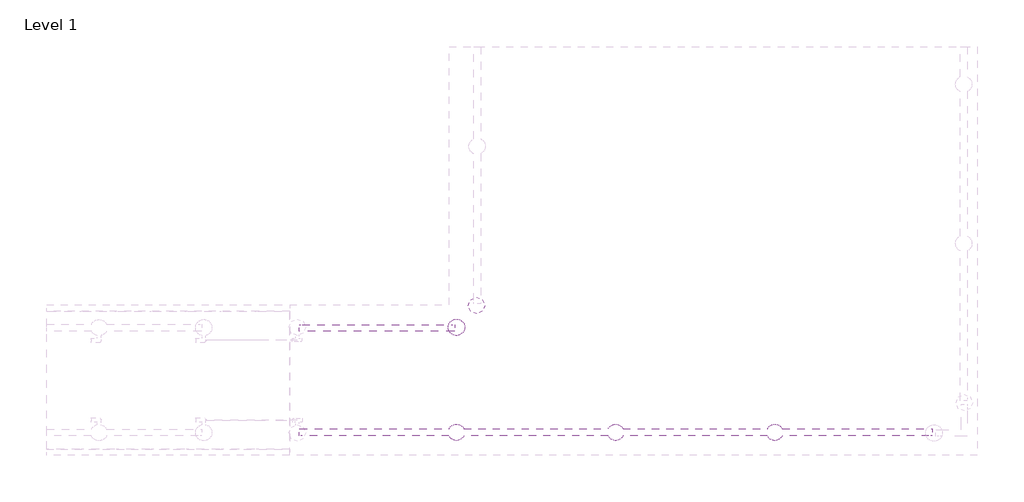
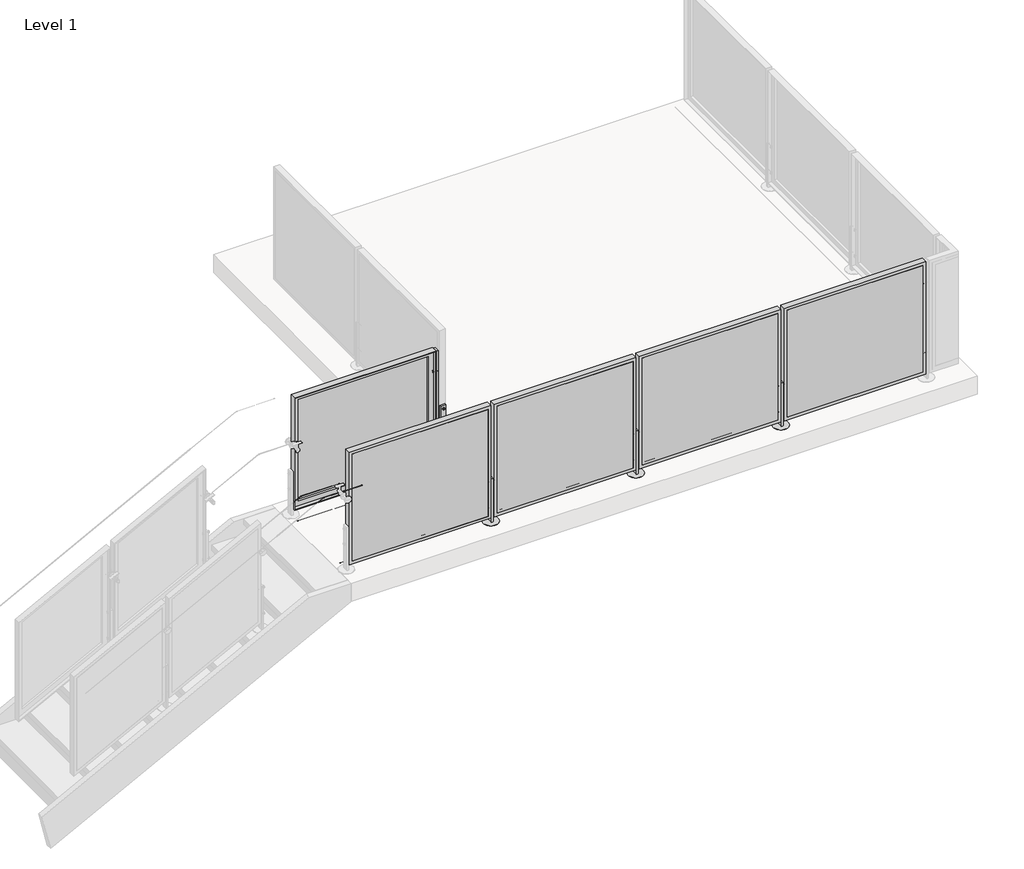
# One storey, part 35 of 37: 2 proxies, 2 railings.
"""IFC4 building model written with IfcOpenShell, lengths in millimetres."""

from ifc_helpers import new_model, si_unit, point, frame, frame_2d, origin, place, context, project, spatial, polyline, circle_curve, trimmed, segment, composite_curve, outline, extrude, faceted_brep, transform, mapped, element, save
from ifc_brep_helpers import plane_surface, cylinder_surface, advanced_brep
from components import baluster_end_post_viva_frame_top_mount_933f940f, baluster_end_post_viva_frame_top_mount_933cdb12

model = new_model("IFC4")

# Units and contexts
model_context = context("Model", 3, world=origin())
ifc_project = project(units=[si_unit("LENGTHUNIT", "METRE", prefix="MILLI")], contexts=[model_context])

# Site, building, storey
site = spatial("IfcSite", under=ifc_project)
building = spatial("IfcBuilding", under=site)
storey = spatial("IfcBuildingStorey", under=building, Name="Level 1", Elevation=0.0)

# Proxies
placement = place(None, origin())
baluster_end_post_viva_frame_top_mount_shape = baluster_end_post_viva_frame_top_mount_933f940f(model_context)
element("IfcBuildingElementProxy", 1, Name="Baluster-End-Post-VIVA-FRAME-Top Mount : CORED INTO CONCRETE_TOP MOUNT FOLD_STRAIGHT", ObjectType="Baluster-End-Post-VIVA-FRAME-Top Mount : CORED INTO CONCRETE_TOP MOUNT FOLD_STRAIGHT", at=placement, inside=storey, context=model_context, shape_type="MappedRepresentation", body=[
    mapped(baluster_end_post_viva_frame_top_mount_shape, transform((-5882.5754694, 9521.3663722, 3047.492), x_axis=(0.0, -1.0, 0.0), y_axis=(1.0, 0.0, 0.0), z_axis=(0.0, 0.0, 1.0))),
])
baluster_end_post_viva_frame_top_mount_2_shape = baluster_end_post_viva_frame_top_mount_933cdb12(model_context)
element("IfcBuildingElementProxy", 2, Name="Baluster-End-Post-VIVA-FRAME-Top Mount : CORED INTO CONCRETE_TOP MOUNT FOLD_STRAIGHT", ObjectType="Baluster-End-Post-VIVA-FRAME-Top Mount : CORED INTO CONCRETE_TOP MOUNT FOLD_STRAIGHT", at=placement, inside=storey, context=model_context, shape_type="MappedRepresentation", body=[
    mapped(baluster_end_post_viva_frame_top_mount_2_shape, transform((-6143.6813244, 9246.7937722, 3047.492), x_axis=(-1.0, 0.0, 0.0), y_axis=(0.0, -1.0, 0.0), z_axis=(0.0, 0.0, 1.0))),
])

# Railings
element("IfcRailing", 3, ObjectType="Metal-Panel-VIVA-FRAME-Top_Core-Straight", at=placement, inside=storey, context=model_context, shape_type="SolidModel", body=[
    extrude(outline(composite_curve([segment(trimmed(circle_curve(frame_2d((8605.5937722, 3047.746)), 0.254), [point((8605.3397722, 3047.746))], [point((8605.8477722, 3047.746))], False, "CARTESIAN"), True, "CONTINUOUS"), segment(trimmed(circle_curve(frame_2d((8605.5937722, 3047.746)), 0.254), [point((8605.8477722, 3047.746))], [point((8605.3397722, 3047.746))], False, "CARTESIAN"), True, "CONTINUOUS")], self_intersect=False)), frame((-7413.6813244, 0.0, 0.0), z_axis=(1.0, 0.0, 0.0), x_axis=(0.0, 1.0, 0.0)), (0.0, 0.0, 1.0), 5080.0),
    extrude(outline(composite_curve([segment(trimmed(circle_curve(frame_2d((8605.5937722, 3047.746)), 0.254), [point((8605.3397722, 3047.746))], [point((8605.8477722, 3047.746))], False, "CARTESIAN"), True, "CONTINUOUS"), segment(trimmed(circle_curve(frame_2d((8605.5937722, 3047.746)), 0.254), [point((8605.8477722, 3047.746))], [point((8605.3397722, 3047.746))], False, "CARTESIAN"), True, "CONTINUOUS")], self_intersect=False)), frame((-7413.6813244, 0.0, 0.0), z_axis=(1.0, 0.0, 0.0), x_axis=(0.0, 1.0, 0.0)), (0.0, 0.0, 1.0), 5080.0),
    extrude(outline(polyline([(-3562.8548675, 8482.7833722), (-3562.8548675, 8485.7833722), (-2374.5077814, 8485.7833722), (-2374.5077814, 8482.7833722), (-3562.8548675, 8482.7833722)])), frame((0.0, 0.0, 3124.1959569), z_axis=(0.0, 0.0, 1.0), x_axis=(1.0, 0.0, 0.0)), (0.0, 0.0, 1.0), 990.5826861),
    faceted_brep([(-3588.2548675, 8482.7833722, 4140.1786431), (-3588.2548675, 8482.7833722, 3098.7959569), (-2349.1077814, 8482.7833722, 3098.7959569), (-2349.1077814, 8482.7833722, 4140.1786431), (-3562.8548675, 8482.7833722, 4114.7786431), (-2374.5077814, 8482.7833722, 4114.7786431), (-2374.5077814, 8482.7833722, 3124.1959569), (-3562.8548675, 8482.7833722, 3124.1959569), (-2374.5077814, 8485.7833722, 3124.1959569), (-3562.8548675, 8485.7833722, 3124.1959569), (-2374.5077814, 8485.7833722, 4114.7786431), (-3562.8548675, 8485.7833722, 4114.7786431), (-3582.2604675, 8536.5833722, 3104.7903569), (-3582.2604675, 8505.7731722, 3104.7903569), (-2355.1021814, 8505.7731722, 3104.7903569), (-2355.1021814, 8536.5833722, 3104.7903569), (-2355.1021814, 8505.7731722, 4134.1842431), (-2355.1021814, 8536.5833722, 4134.1842431), (-3582.2604675, 8536.5833722, 4134.1842431), (-3582.2604675, 8505.7731722, 4134.1842431), (-2349.1077814, 8536.5833722, 3098.7959569), (-3588.2548675, 8536.5833722, 3098.7959569), (-3588.2548675, 8536.5833722, 4140.1786431), (-2349.1077814, 8536.5833722, 4140.1786431), (-3537.4548675, 8485.7833722, 4089.3786431), (-2399.9077814, 8485.7833722, 4089.3786431), (-2399.9077814, 8485.7833722, 3149.5959569), (-3537.4548675, 8485.7833722, 3149.5959569), (-2399.9077814, 8505.7731722, 3149.5959569), (-2399.9077814, 8505.7731722, 4089.3786431), (-3537.4548675, 8505.7731722, 4089.3786431), (-3537.4548675, 8505.7731722, 3149.5959569)], [[[0, 1, 2, 3], [4, 5, 6, 7]], [[7, 6, 8, 9]], [[6, 5, 10, 8]], [[5, 4, 11, 10]], [[4, 7, 9, 11]], [[12, 13, 14, 15]], [[15, 14, 16, 17]], [[13, 12, 18, 19]], [[20, 21, 22, 23], [12, 15, 17, 18]], [[21, 1, 0, 22]], [[21, 20, 2, 1]], [[2, 20, 23, 3]], [[22, 0, 3, 23]], [[11, 9, 8, 10], [24, 25, 26, 27]], [[14, 13, 19, 16], [28, 29, 30, 31]], [[19, 18, 17, 16]], [[25, 24, 30, 29]], [[26, 25, 29, 28]], [[27, 26, 28, 31]], [[24, 27, 31, 30]]]),
    extrude(outline(composite_curve([segment(trimmed(circle_curve(frame_2d((-3603.6813244, 8509.6833722)), 65.8876), [point((-3603.6813244, 8443.7957722))], [point((-3603.6813244, 8575.5709722))], False, "CARTESIAN"), True, "CONTINUOUS"), segment(trimmed(circle_curve(frame_2d((-3603.6813244, 8509.6833722)), 65.8876), [point((-3603.6813244, 8575.5709722))], [point((-3603.6813244, 8443.7957722))], False, "CARTESIAN"), True, "CONTINUOUS")], self_intersect=False)), frame((0.0, 0.0, 3048.0), z_axis=(0.0, 0.0, 1.0), x_axis=(1.0, 0.0, 0.0)), (0.0, 0.0, 1.0), 2.9821299),
    advanced_brep(
    [(-3629.8687244, 8509.6833722, 3178.1496), (-3629.8687244, 8509.6833722, 3197.2504), (-3629.8687244, 8509.6833722, 3187.7), (-3625.0935244, 8509.6833722, 3178.1496), (-3625.0935244, 8509.6833722, 3197.2504), (-3625.0935244, 8509.6833722, 3182.9248), (-3625.0935244, 8509.6833722, 3192.4752), (-3582.2691244, 8509.6833722, 3182.9248), (-3582.2691244, 8509.6833722, 3192.4752), (-3582.2691244, 8509.6833722, 3178.1496), (-3582.2691244, 8509.6833722, 3197.2504), (-3577.4939244, 8509.6833722, 3178.1496), (-3577.4939244, 8509.6833722, 3197.2504), (-3577.4939244, 8509.6833722, 3187.7)],
    [
        (0, 1, circle_curve(frame((-3629.8687244, 8509.6833722, 3187.7), z_axis=(-1.0, 0.0, 0.0), x_axis=(0.0, 0.0, 1.0)), 9.5504)),
        (1, 2),
        (2, 0),
        (1, 0, circle_curve(frame((-3629.8687244, 8509.6833722, 3187.7), z_axis=(-1.0, 0.0, 0.0), x_axis=(0.0, 0.0, 1.0)), 9.5504)),
        (3, 4, circle_curve(frame((-3625.0935244, 8509.6833722, 3187.7), z_axis=(-1.0, 0.0, 0.0), x_axis=(0.0, 0.0, 1.0)), 9.5504)),
        (4, 1),
        (0, 3),
        (4, 3, circle_curve(frame((-3625.0935244, 8509.6833722, 3187.7), z_axis=(-1.0, 0.0, 0.0), x_axis=(0.0, 0.0, 1.0)), 9.5504)),
        (5, 6, circle_curve(frame((-3625.0935244, 8509.6833722, 3187.7), z_axis=(-1.0, 0.0, 0.0), x_axis=(0.0, 0.0, 1.0)), 4.7752)),
        (6, 4),
        (3, 5),
        (6, 5, circle_curve(frame((-3625.0935244, 8509.6833722, 3187.7), z_axis=(-1.0, 0.0, 0.0), x_axis=(0.0, 0.0, 1.0)), 4.7752)),
        (7, 8, circle_curve(frame((-3582.2691244, 8509.6833722, 3187.7), z_axis=(-1.0, 0.0, 0.0), x_axis=(0.0, 0.0, 1.0)), 4.7752)),
        (8, 6),
        (5, 7),
        (8, 7, circle_curve(frame((-3582.2691244, 8509.6833722, 3187.7), z_axis=(-1.0, 0.0, 0.0), x_axis=(0.0, 0.0, 1.0)), 4.7752)),
        (9, 10, circle_curve(frame((-3582.2691244, 8509.6833722, 3187.7), z_axis=(-1.0, 0.0, 0.0), x_axis=(0.0, 0.0, 1.0)), 9.5504)),
        (10, 8),
        (7, 9),
        (10, 9, circle_curve(frame((-3582.2691244, 8509.6833722, 3187.7), z_axis=(-1.0, 0.0, 0.0), x_axis=(0.0, 0.0, 1.0)), 9.5504)),
        (11, 12, circle_curve(frame((-3577.4939244, 8509.6833722, 3187.7), z_axis=(-1.0, 0.0, 0.0), x_axis=(0.0, 0.0, 1.0)), 9.5504)),
        (12, 10),
        (9, 11),
        (12, 11, circle_curve(frame((-3577.4939244, 8509.6833722, 3187.7), z_axis=(-1.0, 0.0, 0.0), x_axis=(0.0, 0.0, 1.0)), 9.5504)),
        (13, 12),
        (11, 13),
    ],
    [
        plane_surface(frame((-3629.8687244, 8509.6833722, 3187.7), z_axis=(-1.0, 0.0, 0.0), x_axis=(0.0, 0.0, 1.0))),
        cylinder_surface(frame((-7021.4490816, 8509.6833722, 3187.7), z_axis=(1.0, 0.0, 0.0), x_axis=(0.0, 0.0, 1.0)), 9.5504),
        plane_surface(frame((-3625.0935244, 8509.6833722, 3187.7), z_axis=(1.0, 0.0, 0.0), x_axis=(0.0, 0.0, 1.0))),
        cylinder_surface(frame((-7021.4490816, 8509.6833722, 3187.7), z_axis=(1.0, 0.0, 0.0), x_axis=(0.0, 0.0, 1.0)), 4.7752),
        plane_surface(frame((-3582.2691244, 8509.6833722, 3187.7), z_axis=(-1.0, 0.0, 0.0), x_axis=(0.0, 0.0, 1.0))),
        plane_surface(frame((-3577.4939244, 8509.6833722, 3187.7), z_axis=(1.0, 0.0, 0.0), x_axis=(0.0, 0.0, 1.0))),
    ],
    [
        (0, [[1, 2, 3]]),
        (0, [[4, -3, -2]]),
        (1, [[5, 6, -1, 7]]),
        (1, [[8, -7, -4, -6]]),
        (2, [[9, 10, -5, 11]]),
        (2, [[12, -11, -8, -10]]),
        (3, [[13, 14, -9, 15]]),
        (3, [[16, -15, -12, -14]]),
        (4, [[17, 18, -13, 19]]),
        (4, [[20, -19, -16, -18]]),
        (1, [[21, 22, -17, 23]]),
        (1, [[24, -23, -20, -22]]),
        (5, [[25, -21, 26]]),
        (5, [[-26, -24, -25]]),
    ],
),
    advanced_brep(
    [(-3629.8687244, 8509.6833722, 3419.4496), (-3629.8687244, 8509.6833722, 3438.5504), (-3629.8687244, 8509.6833722, 3429.0), (-3625.0935244, 8509.6833722, 3419.4496), (-3625.0935244, 8509.6833722, 3438.5504), (-3625.0935244, 8509.6833722, 3424.2248), (-3625.0935244, 8509.6833722, 3433.7752), (-3582.2691244, 8509.6833722, 3424.2248), (-3582.2691244, 8509.6833722, 3433.7752), (-3582.2691244, 8509.6833722, 3419.4496), (-3582.2691244, 8509.6833722, 3438.5504), (-3577.4939244, 8509.6833722, 3419.4496), (-3577.4939244, 8509.6833722, 3438.5504), (-3577.4939244, 8509.6833722, 3429.0)],
    [
        (0, 1, circle_curve(frame((-3629.8687244, 8509.6833722, 3429.0), z_axis=(-1.0, 0.0, 0.0), x_axis=(0.0, 0.0, 1.0)), 9.5504)),
        (1, 2),
        (2, 0),
        (1, 0, circle_curve(frame((-3629.8687244, 8509.6833722, 3429.0), z_axis=(-1.0, 0.0, 0.0), x_axis=(0.0, 0.0, 1.0)), 9.5504)),
        (3, 4, circle_curve(frame((-3625.0935244, 8509.6833722, 3429.0), z_axis=(-1.0, 0.0, 0.0), x_axis=(0.0, 0.0, 1.0)), 9.5504)),
        (4, 1),
        (0, 3),
        (4, 3, circle_curve(frame((-3625.0935244, 8509.6833722, 3429.0), z_axis=(-1.0, 0.0, 0.0), x_axis=(0.0, 0.0, 1.0)), 9.5504)),
        (5, 6, circle_curve(frame((-3625.0935244, 8509.6833722, 3429.0), z_axis=(-1.0, 0.0, 0.0), x_axis=(0.0, 0.0, 1.0)), 4.7752)),
        (6, 4),
        (3, 5),
        (6, 5, circle_curve(frame((-3625.0935244, 8509.6833722, 3429.0), z_axis=(-1.0, 0.0, 0.0), x_axis=(0.0, 0.0, 1.0)), 4.7752)),
        (7, 8, circle_curve(frame((-3582.2691244, 8509.6833722, 3429.0), z_axis=(-1.0, 0.0, 0.0), x_axis=(0.0, 0.0, 1.0)), 4.7752)),
        (8, 6),
        (5, 7),
        (8, 7, circle_curve(frame((-3582.2691244, 8509.6833722, 3429.0), z_axis=(-1.0, 0.0, 0.0), x_axis=(0.0, 0.0, 1.0)), 4.7752)),
        (9, 10, circle_curve(frame((-3582.2691244, 8509.6833722, 3429.0), z_axis=(-1.0, 0.0, 0.0), x_axis=(0.0, 0.0, 1.0)), 9.5504)),
        (10, 8),
        (7, 9),
        (10, 9, circle_curve(frame((-3582.2691244, 8509.6833722, 3429.0), z_axis=(-1.0, 0.0, 0.0), x_axis=(0.0, 0.0, 1.0)), 9.5504)),
        (11, 12, circle_curve(frame((-3577.4939244, 8509.6833722, 3429.0), z_axis=(-1.0, 0.0, 0.0), x_axis=(0.0, 0.0, 1.0)), 9.5504)),
        (12, 10),
        (9, 11),
        (12, 11, circle_curve(frame((-3577.4939244, 8509.6833722, 3429.0), z_axis=(-1.0, 0.0, 0.0), x_axis=(0.0, 0.0, 1.0)), 9.5504)),
        (13, 12),
        (11, 13),
    ],
    [
        plane_surface(frame((-3629.8687244, 8509.6833722, 3429.0), z_axis=(-1.0, 0.0, 0.0), x_axis=(0.0, 0.0, 1.0))),
        cylinder_surface(frame((-7021.4490816, 8509.6833722, 3429.0), z_axis=(1.0, 0.0, 0.0), x_axis=(0.0, 0.0, 1.0)), 9.5504),
        plane_surface(frame((-3625.0935244, 8509.6833722, 3429.0), z_axis=(1.0, 0.0, 0.0), x_axis=(0.0, 0.0, 1.0))),
        cylinder_surface(frame((-7021.4490816, 8509.6833722, 3429.0), z_axis=(1.0, 0.0, 0.0), x_axis=(0.0, 0.0, 1.0)), 4.7752),
        plane_surface(frame((-3582.2691244, 8509.6833722, 3429.0), z_axis=(-1.0, 0.0, 0.0), x_axis=(0.0, 0.0, 1.0))),
        plane_surface(frame((-3577.4939244, 8509.6833722, 3429.0), z_axis=(1.0, 0.0, 0.0), x_axis=(0.0, 0.0, 1.0))),
    ],
    [
        (0, [[1, 2, 3]]),
        (0, [[4, -3, -2]]),
        (1, [[5, 6, -1, 7]]),
        (1, [[8, -7, -4, -6]]),
        (2, [[9, 10, -5, 11]]),
        (2, [[12, -11, -8, -10]]),
        (3, [[13, 14, -9, 15]]),
        (3, [[16, -15, -12, -14]]),
        (4, [[17, 18, -13, 19]]),
        (4, [[20, -19, -16, -18]]),
        (1, [[21, 22, -17, 23]]),
        (1, [[24, -23, -20, -22]]),
        (5, [[25, -21, 26]]),
        (5, [[-26, -24, -25]]),
    ],
),
    extrude(outline(polyline([(-3611.6209161, 8531.9083722), (-3595.7417328, 8531.9083722), (-3595.7417328, 8487.4583722), (-3611.6209161, 8487.4583722), (-3611.6209161, 8531.9083722)])), frame((0.0, 0.0, 2946.4), z_axis=(0.0, 0.0, 1.0), x_axis=(1.0, 0.0, 0.0)), (0.0, 0.0, 1.0), 508.0),
    extrude(outline(polyline([(-4832.8548675, 8482.7833722), (-4832.8548675, 8485.7833722), (-3644.5077814, 8485.7833722), (-3644.5077814, 8482.7833722), (-4832.8548675, 8482.7833722)])), frame((0.0, 0.0, 3124.1959569), z_axis=(0.0, 0.0, 1.0), x_axis=(1.0, 0.0, 0.0)), (0.0, 0.0, 1.0), 990.5826861),
    faceted_brep([(-4858.2548675, 8482.7833722, 4140.1786431), (-4858.2548675, 8482.7833722, 3098.7959569), (-3619.1077814, 8482.7833722, 3098.7959569), (-3619.1077814, 8482.7833722, 4140.1786431), (-4832.8548675, 8482.7833722, 4114.7786431), (-3644.5077814, 8482.7833722, 4114.7786431), (-3644.5077814, 8482.7833722, 3124.1959569), (-4832.8548675, 8482.7833722, 3124.1959569), (-3644.5077814, 8485.7833722, 3124.1959569), (-4832.8548675, 8485.7833722, 3124.1959569), (-3644.5077814, 8485.7833722, 4114.7786431), (-4832.8548675, 8485.7833722, 4114.7786431), (-4852.2604675, 8536.5833722, 3104.7903569), (-4852.2604675, 8505.7731722, 3104.7903569), (-3625.1021814, 8505.7731722, 3104.7903569), (-3625.1021814, 8536.5833722, 3104.7903569), (-3625.1021814, 8505.7731722, 4134.1842431), (-3625.1021814, 8536.5833722, 4134.1842431), (-4852.2604675, 8536.5833722, 4134.1842431), (-4852.2604675, 8505.7731722, 4134.1842431), (-3619.1077814, 8536.5833722, 3098.7959569), (-4858.2548675, 8536.5833722, 3098.7959569), (-4858.2548675, 8536.5833722, 4140.1786431), (-3619.1077814, 8536.5833722, 4140.1786431), (-4807.4548675, 8485.7833722, 4089.3786431), (-3669.9077814, 8485.7833722, 4089.3786431), (-3669.9077814, 8485.7833722, 3149.5959569), (-4807.4548675, 8485.7833722, 3149.5959569), (-3669.9077814, 8505.7731722, 3149.5959569), (-3669.9077814, 8505.7731722, 4089.3786431), (-4807.4548675, 8505.7731722, 4089.3786431), (-4807.4548675, 8505.7731722, 3149.5959569)], [[[0, 1, 2, 3], [4, 5, 6, 7]], [[7, 6, 8, 9]], [[6, 5, 10, 8]], [[5, 4, 11, 10]], [[4, 7, 9, 11]], [[12, 13, 14, 15]], [[15, 14, 16, 17]], [[13, 12, 18, 19]], [[20, 21, 22, 23], [12, 15, 17, 18]], [[21, 1, 0, 22]], [[21, 20, 2, 1]], [[2, 20, 23, 3]], [[22, 0, 3, 23]], [[11, 9, 8, 10], [24, 25, 26, 27]], [[14, 13, 19, 16], [28, 29, 30, 31]], [[19, 18, 17, 16]], [[25, 24, 30, 29]], [[26, 25, 29, 28]], [[27, 26, 28, 31]], [[24, 27, 31, 30]]]),
    extrude(outline(composite_curve([segment(trimmed(circle_curve(frame_2d((-4873.6813244, 8509.6833722)), 65.8876), [point((-4873.6813244, 8443.7957722))], [point((-4873.6813244, 8575.5709722))], False, "CARTESIAN"), True, "CONTINUOUS"), segment(trimmed(circle_curve(frame_2d((-4873.6813244, 8509.6833722)), 65.8876), [point((-4873.6813244, 8575.5709722))], [point((-4873.6813244, 8443.7957722))], False, "CARTESIAN"), True, "CONTINUOUS")], self_intersect=False)), frame((0.0, 0.0, 3048.0), z_axis=(0.0, 0.0, 1.0), x_axis=(1.0, 0.0, 0.0)), (0.0, 0.0, 1.0), 2.9821299),
    advanced_brep(
    [(-4899.8687244, 8509.6833722, 3178.1496), (-4899.8687244, 8509.6833722, 3197.2504), (-4899.8687244, 8509.6833722, 3187.7), (-4895.0935244, 8509.6833722, 3178.1496), (-4895.0935244, 8509.6833722, 3197.2504), (-4895.0935244, 8509.6833722, 3182.9248), (-4895.0935244, 8509.6833722, 3192.4752), (-4852.2691244, 8509.6833722, 3182.9248), (-4852.2691244, 8509.6833722, 3192.4752), (-4852.2691244, 8509.6833722, 3178.1496), (-4852.2691244, 8509.6833722, 3197.2504), (-4847.4939244, 8509.6833722, 3178.1496), (-4847.4939244, 8509.6833722, 3197.2504), (-4847.4939244, 8509.6833722, 3187.7)],
    [
        (0, 1, circle_curve(frame((-4899.8687244, 8509.6833722, 3187.7), z_axis=(-1.0, 0.0, 0.0), x_axis=(0.0, 0.0, 1.0)), 9.5504)),
        (1, 2),
        (2, 0),
        (1, 0, circle_curve(frame((-4899.8687244, 8509.6833722, 3187.7), z_axis=(-1.0, 0.0, 0.0), x_axis=(0.0, 0.0, 1.0)), 9.5504)),
        (3, 4, circle_curve(frame((-4895.0935244, 8509.6833722, 3187.7), z_axis=(-1.0, 0.0, 0.0), x_axis=(0.0, 0.0, 1.0)), 9.5504)),
        (4, 1),
        (0, 3),
        (4, 3, circle_curve(frame((-4895.0935244, 8509.6833722, 3187.7), z_axis=(-1.0, 0.0, 0.0), x_axis=(0.0, 0.0, 1.0)), 9.5504)),
        (5, 6, circle_curve(frame((-4895.0935244, 8509.6833722, 3187.7), z_axis=(-1.0, 0.0, 0.0), x_axis=(0.0, 0.0, 1.0)), 4.7752)),
        (6, 4),
        (3, 5),
        (6, 5, circle_curve(frame((-4895.0935244, 8509.6833722, 3187.7), z_axis=(-1.0, 0.0, 0.0), x_axis=(0.0, 0.0, 1.0)), 4.7752)),
        (7, 8, circle_curve(frame((-4852.2691244, 8509.6833722, 3187.7), z_axis=(-1.0, 0.0, 0.0), x_axis=(0.0, 0.0, 1.0)), 4.7752)),
        (8, 6),
        (5, 7),
        (8, 7, circle_curve(frame((-4852.2691244, 8509.6833722, 3187.7), z_axis=(-1.0, 0.0, 0.0), x_axis=(0.0, 0.0, 1.0)), 4.7752)),
        (9, 10, circle_curve(frame((-4852.2691244, 8509.6833722, 3187.7), z_axis=(-1.0, 0.0, 0.0), x_axis=(0.0, 0.0, 1.0)), 9.5504)),
        (10, 8),
        (7, 9),
        (10, 9, circle_curve(frame((-4852.2691244, 8509.6833722, 3187.7), z_axis=(-1.0, 0.0, 0.0), x_axis=(0.0, 0.0, 1.0)), 9.5504)),
        (11, 12, circle_curve(frame((-4847.4939244, 8509.6833722, 3187.7), z_axis=(-1.0, 0.0, 0.0), x_axis=(0.0, 0.0, 1.0)), 9.5504)),
        (12, 10),
        (9, 11),
        (12, 11, circle_curve(frame((-4847.4939244, 8509.6833722, 3187.7), z_axis=(-1.0, 0.0, 0.0), x_axis=(0.0, 0.0, 1.0)), 9.5504)),
        (13, 12),
        (11, 13),
    ],
    [
        plane_surface(frame((-4899.8687244, 8509.6833722, 3187.7), z_axis=(-1.0, 0.0, 0.0), x_axis=(0.0, 0.0, 1.0))),
        cylinder_surface(frame((-8291.4490816, 8509.6833722, 3187.7), z_axis=(1.0, 0.0, 0.0), x_axis=(0.0, 0.0, 1.0)), 9.5504),
        plane_surface(frame((-4895.0935244, 8509.6833722, 3187.7), z_axis=(1.0, 0.0, 0.0), x_axis=(0.0, 0.0, 1.0))),
        cylinder_surface(frame((-8291.4490816, 8509.6833722, 3187.7), z_axis=(1.0, 0.0, 0.0), x_axis=(0.0, 0.0, 1.0)), 4.7752),
        plane_surface(frame((-4852.2691244, 8509.6833722, 3187.7), z_axis=(-1.0, 0.0, 0.0), x_axis=(0.0, 0.0, 1.0))),
        plane_surface(frame((-4847.4939244, 8509.6833722, 3187.7), z_axis=(1.0, 0.0, 0.0), x_axis=(0.0, 0.0, 1.0))),
    ],
    [
        (0, [[1, 2, 3]]),
        (0, [[4, -3, -2]]),
        (1, [[5, 6, -1, 7]]),
        (1, [[8, -7, -4, -6]]),
        (2, [[9, 10, -5, 11]]),
        (2, [[12, -11, -8, -10]]),
        (3, [[13, 14, -9, 15]]),
        (3, [[16, -15, -12, -14]]),
        (4, [[17, 18, -13, 19]]),
        (4, [[20, -19, -16, -18]]),
        (1, [[21, 22, -17, 23]]),
        (1, [[24, -23, -20, -22]]),
        (5, [[25, -21, 26]]),
        (5, [[-26, -24, -25]]),
    ],
),
    advanced_brep(
    [(-4899.8687244, 8509.6833722, 3419.4496), (-4899.8687244, 8509.6833722, 3438.5504), (-4899.8687244, 8509.6833722, 3429.0), (-4895.0935244, 8509.6833722, 3419.4496), (-4895.0935244, 8509.6833722, 3438.5504), (-4895.0935244, 8509.6833722, 3424.2248), (-4895.0935244, 8509.6833722, 3433.7752), (-4852.2691244, 8509.6833722, 3424.2248), (-4852.2691244, 8509.6833722, 3433.7752), (-4852.2691244, 8509.6833722, 3419.4496), (-4852.2691244, 8509.6833722, 3438.5504), (-4847.4939244, 8509.6833722, 3419.4496), (-4847.4939244, 8509.6833722, 3438.5504), (-4847.4939244, 8509.6833722, 3429.0)],
    [
        (0, 1, circle_curve(frame((-4899.8687244, 8509.6833722, 3429.0), z_axis=(-1.0, 0.0, 0.0), x_axis=(0.0, 0.0, 1.0)), 9.5504)),
        (1, 2),
        (2, 0),
        (1, 0, circle_curve(frame((-4899.8687244, 8509.6833722, 3429.0), z_axis=(-1.0, 0.0, 0.0), x_axis=(0.0, 0.0, 1.0)), 9.5504)),
        (3, 4, circle_curve(frame((-4895.0935244, 8509.6833722, 3429.0), z_axis=(-1.0, 0.0, 0.0), x_axis=(0.0, 0.0, 1.0)), 9.5504)),
        (4, 1),
        (0, 3),
        (4, 3, circle_curve(frame((-4895.0935244, 8509.6833722, 3429.0), z_axis=(-1.0, 0.0, 0.0), x_axis=(0.0, 0.0, 1.0)), 9.5504)),
        (5, 6, circle_curve(frame((-4895.0935244, 8509.6833722, 3429.0), z_axis=(-1.0, 0.0, 0.0), x_axis=(0.0, 0.0, 1.0)), 4.7752)),
        (6, 4),
        (3, 5),
        (6, 5, circle_curve(frame((-4895.0935244, 8509.6833722, 3429.0), z_axis=(-1.0, 0.0, 0.0), x_axis=(0.0, 0.0, 1.0)), 4.7752)),
        (7, 8, circle_curve(frame((-4852.2691244, 8509.6833722, 3429.0), z_axis=(-1.0, 0.0, 0.0), x_axis=(0.0, 0.0, 1.0)), 4.7752)),
        (8, 6),
        (5, 7),
        (8, 7, circle_curve(frame((-4852.2691244, 8509.6833722, 3429.0), z_axis=(-1.0, 0.0, 0.0), x_axis=(0.0, 0.0, 1.0)), 4.7752)),
        (9, 10, circle_curve(frame((-4852.2691244, 8509.6833722, 3429.0), z_axis=(-1.0, 0.0, 0.0), x_axis=(0.0, 0.0, 1.0)), 9.5504)),
        (10, 8),
        (7, 9),
        (10, 9, circle_curve(frame((-4852.2691244, 8509.6833722, 3429.0), z_axis=(-1.0, 0.0, 0.0), x_axis=(0.0, 0.0, 1.0)), 9.5504)),
        (11, 12, circle_curve(frame((-4847.4939244, 8509.6833722, 3429.0), z_axis=(-1.0, 0.0, 0.0), x_axis=(0.0, 0.0, 1.0)), 9.5504)),
        (12, 10),
        (9, 11),
        (12, 11, circle_curve(frame((-4847.4939244, 8509.6833722, 3429.0), z_axis=(-1.0, 0.0, 0.0), x_axis=(0.0, 0.0, 1.0)), 9.5504)),
        (13, 12),
        (11, 13),
    ],
    [
        plane_surface(frame((-4899.8687244, 8509.6833722, 3429.0), z_axis=(-1.0, 0.0, 0.0), x_axis=(0.0, 0.0, 1.0))),
        cylinder_surface(frame((-8291.4490816, 8509.6833722, 3429.0), z_axis=(1.0, 0.0, 0.0), x_axis=(0.0, 0.0, 1.0)), 9.5504),
        plane_surface(frame((-4895.0935244, 8509.6833722, 3429.0), z_axis=(1.0, 0.0, 0.0), x_axis=(0.0, 0.0, 1.0))),
        cylinder_surface(frame((-8291.4490816, 8509.6833722, 3429.0), z_axis=(1.0, 0.0, 0.0), x_axis=(0.0, 0.0, 1.0)), 4.7752),
        plane_surface(frame((-4852.2691244, 8509.6833722, 3429.0), z_axis=(-1.0, 0.0, 0.0), x_axis=(0.0, 0.0, 1.0))),
        plane_surface(frame((-4847.4939244, 8509.6833722, 3429.0), z_axis=(1.0, 0.0, 0.0), x_axis=(0.0, 0.0, 1.0))),
    ],
    [
        (0, [[1, 2, 3]]),
        (0, [[4, -3, -2]]),
        (1, [[5, 6, -1, 7]]),
        (1, [[8, -7, -4, -6]]),
        (2, [[9, 10, -5, 11]]),
        (2, [[12, -11, -8, -10]]),
        (3, [[13, 14, -9, 15]]),
        (3, [[16, -15, -12, -14]]),
        (4, [[17, 18, -13, 19]]),
        (4, [[20, -19, -16, -18]]),
        (1, [[21, 22, -17, 23]]),
        (1, [[24, -23, -20, -22]]),
        (5, [[25, -21, 26]]),
        (5, [[-26, -24, -25]]),
    ],
),
    extrude(outline(polyline([(-4881.6209161, 8531.9083722), (-4865.7417328, 8531.9083722), (-4865.7417328, 8487.4583722), (-4881.6209161, 8487.4583722), (-4881.6209161, 8531.9083722)])), frame((0.0, 0.0, 2946.4), z_axis=(0.0, 0.0, 1.0), x_axis=(1.0, 0.0, 0.0)), (0.0, 0.0, 1.0), 508.0),
    extrude(outline(polyline([(-6102.8548675, 8482.7833722), (-6102.8548675, 8485.7833722), (-4914.5077814, 8485.7833722), (-4914.5077814, 8482.7833722), (-6102.8548675, 8482.7833722)])), frame((0.0, 0.0, 3124.1959569), z_axis=(0.0, 0.0, 1.0), x_axis=(1.0, 0.0, 0.0)), (0.0, 0.0, 1.0), 990.5826861),
    faceted_brep([(-6128.2548675, 8482.7833722, 4140.1786431), (-6128.2548675, 8482.7833722, 3098.7959569), (-4889.1077814, 8482.7833722, 3098.7959569), (-4889.1077814, 8482.7833722, 4140.1786431), (-6102.8548675, 8482.7833722, 4114.7786431), (-4914.5077814, 8482.7833722, 4114.7786431), (-4914.5077814, 8482.7833722, 3124.1959569), (-6102.8548675, 8482.7833722, 3124.1959569), (-4914.5077814, 8485.7833722, 3124.1959569), (-6102.8548675, 8485.7833722, 3124.1959569), (-4914.5077814, 8485.7833722, 4114.7786431), (-6102.8548675, 8485.7833722, 4114.7786431), (-6122.2604675, 8536.5833722, 3104.7903569), (-6122.2604675, 8505.7731722, 3104.7903569), (-4895.1021814, 8505.7731722, 3104.7903569), (-4895.1021814, 8536.5833722, 3104.7903569), (-4895.1021814, 8505.7731722, 4134.1842431), (-4895.1021814, 8536.5833722, 4134.1842431), (-6122.2604675, 8536.5833722, 4134.1842431), (-6122.2604675, 8505.7731722, 4134.1842431), (-4889.1077814, 8536.5833722, 3098.7959569), (-6128.2548675, 8536.5833722, 3098.7959569), (-6128.2548675, 8536.5833722, 4140.1786431), (-4889.1077814, 8536.5833722, 4140.1786431), (-6077.4548675, 8485.7833722, 4089.3786431), (-4939.9077814, 8485.7833722, 4089.3786431), (-4939.9077814, 8485.7833722, 3149.5959569), (-6077.4548675, 8485.7833722, 3149.5959569), (-4939.9077814, 8505.7731722, 3149.5959569), (-4939.9077814, 8505.7731722, 4089.3786431), (-6077.4548675, 8505.7731722, 4089.3786431), (-6077.4548675, 8505.7731722, 3149.5959569)], [[[0, 1, 2, 3], [4, 5, 6, 7]], [[7, 6, 8, 9]], [[6, 5, 10, 8]], [[5, 4, 11, 10]], [[4, 7, 9, 11]], [[12, 13, 14, 15]], [[15, 14, 16, 17]], [[13, 12, 18, 19]], [[20, 21, 22, 23], [12, 15, 17, 18]], [[21, 1, 0, 22]], [[21, 20, 2, 1]], [[2, 20, 23, 3]], [[22, 0, 3, 23]], [[11, 9, 8, 10], [24, 25, 26, 27]], [[14, 13, 19, 16], [28, 29, 30, 31]], [[19, 18, 17, 16]], [[25, 24, 30, 29]], [[26, 25, 29, 28]], [[27, 26, 28, 31]], [[24, 27, 31, 30]]]),
    extrude(outline(composite_curve([segment(trimmed(circle_curve(frame_2d((-6143.6813244, 8509.6833722)), 65.8876), [point((-6143.6813244, 8443.7957722))], [point((-6143.6813244, 8575.5709722))], False, "CARTESIAN"), True, "CONTINUOUS"), segment(trimmed(circle_curve(frame_2d((-6143.6813244, 8509.6833722)), 65.8876), [point((-6143.6813244, 8575.5709722))], [point((-6143.6813244, 8443.7957722))], False, "CARTESIAN"), True, "CONTINUOUS")], self_intersect=False)), frame((0.0, 0.0, 3048.0), z_axis=(0.0, 0.0, 1.0), x_axis=(1.0, 0.0, 0.0)), (0.0, 0.0, 1.0), 2.9821299),
    advanced_brep(
    [(-6169.8687244, 8509.6833722, 3178.1496), (-6169.8687244, 8509.6833722, 3197.2504), (-6169.8687244, 8509.6833722, 3187.7), (-6165.0935244, 8509.6833722, 3178.1496), (-6165.0935244, 8509.6833722, 3197.2504), (-6165.0935244, 8509.6833722, 3182.9248), (-6165.0935244, 8509.6833722, 3192.4752), (-6122.2691244, 8509.6833722, 3182.9248), (-6122.2691244, 8509.6833722, 3192.4752), (-6122.2691244, 8509.6833722, 3178.1496), (-6122.2691244, 8509.6833722, 3197.2504), (-6117.4939244, 8509.6833722, 3178.1496), (-6117.4939244, 8509.6833722, 3197.2504), (-6117.4939244, 8509.6833722, 3187.7)],
    [
        (0, 1, circle_curve(frame((-6169.8687244, 8509.6833722, 3187.7), z_axis=(-1.0, 0.0, 0.0), x_axis=(0.0, 0.0, 1.0)), 9.5504)),
        (1, 2),
        (2, 0),
        (1, 0, circle_curve(frame((-6169.8687244, 8509.6833722, 3187.7), z_axis=(-1.0, 0.0, 0.0), x_axis=(0.0, 0.0, 1.0)), 9.5504)),
        (3, 4, circle_curve(frame((-6165.0935244, 8509.6833722, 3187.7), z_axis=(-1.0, 0.0, 0.0), x_axis=(0.0, 0.0, 1.0)), 9.5504)),
        (4, 1),
        (0, 3),
        (4, 3, circle_curve(frame((-6165.0935244, 8509.6833722, 3187.7), z_axis=(-1.0, 0.0, 0.0), x_axis=(0.0, 0.0, 1.0)), 9.5504)),
        (5, 6, circle_curve(frame((-6165.0935244, 8509.6833722, 3187.7), z_axis=(-1.0, 0.0, 0.0), x_axis=(0.0, 0.0, 1.0)), 4.7752)),
        (6, 4),
        (3, 5),
        (6, 5, circle_curve(frame((-6165.0935244, 8509.6833722, 3187.7), z_axis=(-1.0, 0.0, 0.0), x_axis=(0.0, 0.0, 1.0)), 4.7752)),
        (7, 8, circle_curve(frame((-6122.2691244, 8509.6833722, 3187.7), z_axis=(-1.0, 0.0, 0.0), x_axis=(0.0, 0.0, 1.0)), 4.7752)),
        (8, 6),
        (5, 7),
        (8, 7, circle_curve(frame((-6122.2691244, 8509.6833722, 3187.7), z_axis=(-1.0, 0.0, 0.0), x_axis=(0.0, 0.0, 1.0)), 4.7752)),
        (9, 10, circle_curve(frame((-6122.2691244, 8509.6833722, 3187.7), z_axis=(-1.0, 0.0, 0.0), x_axis=(0.0, 0.0, 1.0)), 9.5504)),
        (10, 8),
        (7, 9),
        (10, 9, circle_curve(frame((-6122.2691244, 8509.6833722, 3187.7), z_axis=(-1.0, 0.0, 0.0), x_axis=(0.0, 0.0, 1.0)), 9.5504)),
        (11, 12, circle_curve(frame((-6117.4939244, 8509.6833722, 3187.7), z_axis=(-1.0, 0.0, 0.0), x_axis=(0.0, 0.0, 1.0)), 9.5504)),
        (12, 10),
        (9, 11),
        (12, 11, circle_curve(frame((-6117.4939244, 8509.6833722, 3187.7), z_axis=(-1.0, 0.0, 0.0), x_axis=(0.0, 0.0, 1.0)), 9.5504)),
        (13, 12),
        (11, 13),
    ],
    [
        plane_surface(frame((-6169.8687244, 8509.6833722, 3187.7), z_axis=(-1.0, 0.0, 0.0), x_axis=(0.0, 0.0, 1.0))),
        cylinder_surface(frame((-9561.4490816, 8509.6833722, 3187.7), z_axis=(1.0, 0.0, 0.0), x_axis=(0.0, 0.0, 1.0)), 9.5504),
        plane_surface(frame((-6165.0935244, 8509.6833722, 3187.7), z_axis=(1.0, 0.0, 0.0), x_axis=(0.0, 0.0, 1.0))),
        cylinder_surface(frame((-9561.4490816, 8509.6833722, 3187.7), z_axis=(1.0, 0.0, 0.0), x_axis=(0.0, 0.0, 1.0)), 4.7752),
        plane_surface(frame((-6122.2691244, 8509.6833722, 3187.7), z_axis=(-1.0, 0.0, 0.0), x_axis=(0.0, 0.0, 1.0))),
        plane_surface(frame((-6117.4939244, 8509.6833722, 3187.7), z_axis=(1.0, 0.0, 0.0), x_axis=(0.0, 0.0, 1.0))),
    ],
    [
        (0, [[1, 2, 3]]),
        (0, [[4, -3, -2]]),
        (1, [[5, 6, -1, 7]]),
        (1, [[8, -7, -4, -6]]),
        (2, [[9, 10, -5, 11]]),
        (2, [[12, -11, -8, -10]]),
        (3, [[13, 14, -9, 15]]),
        (3, [[16, -15, -12, -14]]),
        (4, [[17, 18, -13, 19]]),
        (4, [[20, -19, -16, -18]]),
        (1, [[21, 22, -17, 23]]),
        (1, [[24, -23, -20, -22]]),
        (5, [[25, -21, 26]]),
        (5, [[-26, -24, -25]]),
    ],
),
    advanced_brep(
    [(-6169.8687244, 8509.6833722, 3419.4496), (-6169.8687244, 8509.6833722, 3438.5504), (-6169.8687244, 8509.6833722, 3429.0), (-6165.0935244, 8509.6833722, 3419.4496), (-6165.0935244, 8509.6833722, 3438.5504), (-6165.0935244, 8509.6833722, 3424.2248), (-6165.0935244, 8509.6833722, 3433.7752), (-6122.2691244, 8509.6833722, 3424.2248), (-6122.2691244, 8509.6833722, 3433.7752), (-6122.2691244, 8509.6833722, 3419.4496), (-6122.2691244, 8509.6833722, 3438.5504), (-6117.4939244, 8509.6833722, 3419.4496), (-6117.4939244, 8509.6833722, 3438.5504), (-6117.4939244, 8509.6833722, 3429.0)],
    [
        (0, 1, circle_curve(frame((-6169.8687244, 8509.6833722, 3429.0), z_axis=(-1.0, 0.0, 0.0), x_axis=(0.0, 0.0, 1.0)), 9.5504)),
        (1, 2),
        (2, 0),
        (1, 0, circle_curve(frame((-6169.8687244, 8509.6833722, 3429.0), z_axis=(-1.0, 0.0, 0.0), x_axis=(0.0, 0.0, 1.0)), 9.5504)),
        (3, 4, circle_curve(frame((-6165.0935244, 8509.6833722, 3429.0), z_axis=(-1.0, 0.0, 0.0), x_axis=(0.0, 0.0, 1.0)), 9.5504)),
        (4, 1),
        (0, 3),
        (4, 3, circle_curve(frame((-6165.0935244, 8509.6833722, 3429.0), z_axis=(-1.0, 0.0, 0.0), x_axis=(0.0, 0.0, 1.0)), 9.5504)),
        (5, 6, circle_curve(frame((-6165.0935244, 8509.6833722, 3429.0), z_axis=(-1.0, 0.0, 0.0), x_axis=(0.0, 0.0, 1.0)), 4.7752)),
        (6, 4),
        (3, 5),
        (6, 5, circle_curve(frame((-6165.0935244, 8509.6833722, 3429.0), z_axis=(-1.0, 0.0, 0.0), x_axis=(0.0, 0.0, 1.0)), 4.7752)),
        (7, 8, circle_curve(frame((-6122.2691244, 8509.6833722, 3429.0), z_axis=(-1.0, 0.0, 0.0), x_axis=(0.0, 0.0, 1.0)), 4.7752)),
        (8, 6),
        (5, 7),
        (8, 7, circle_curve(frame((-6122.2691244, 8509.6833722, 3429.0), z_axis=(-1.0, 0.0, 0.0), x_axis=(0.0, 0.0, 1.0)), 4.7752)),
        (9, 10, circle_curve(frame((-6122.2691244, 8509.6833722, 3429.0), z_axis=(-1.0, 0.0, 0.0), x_axis=(0.0, 0.0, 1.0)), 9.5504)),
        (10, 8),
        (7, 9),
        (10, 9, circle_curve(frame((-6122.2691244, 8509.6833722, 3429.0), z_axis=(-1.0, 0.0, 0.0), x_axis=(0.0, 0.0, 1.0)), 9.5504)),
        (11, 12, circle_curve(frame((-6117.4939244, 8509.6833722, 3429.0), z_axis=(-1.0, 0.0, 0.0), x_axis=(0.0, 0.0, 1.0)), 9.5504)),
        (12, 10),
        (9, 11),
        (12, 11, circle_curve(frame((-6117.4939244, 8509.6833722, 3429.0), z_axis=(-1.0, 0.0, 0.0), x_axis=(0.0, 0.0, 1.0)), 9.5504)),
        (13, 12),
        (11, 13),
    ],
    [
        plane_surface(frame((-6169.8687244, 8509.6833722, 3429.0), z_axis=(-1.0, 0.0, 0.0), x_axis=(0.0, 0.0, 1.0))),
        cylinder_surface(frame((-9561.4490816, 8509.6833722, 3429.0), z_axis=(1.0, 0.0, 0.0), x_axis=(0.0, 0.0, 1.0)), 9.5504),
        plane_surface(frame((-6165.0935244, 8509.6833722, 3429.0), z_axis=(1.0, 0.0, 0.0), x_axis=(0.0, 0.0, 1.0))),
        cylinder_surface(frame((-9561.4490816, 8509.6833722, 3429.0), z_axis=(1.0, 0.0, 0.0), x_axis=(0.0, 0.0, 1.0)), 4.7752),
        plane_surface(frame((-6122.2691244, 8509.6833722, 3429.0), z_axis=(-1.0, 0.0, 0.0), x_axis=(0.0, 0.0, 1.0))),
        plane_surface(frame((-6117.4939244, 8509.6833722, 3429.0), z_axis=(1.0, 0.0, 0.0), x_axis=(0.0, 0.0, 1.0))),
    ],
    [
        (0, [[1, 2, 3]]),
        (0, [[4, -3, -2]]),
        (1, [[5, 6, -1, 7]]),
        (1, [[8, -7, -4, -6]]),
        (2, [[9, 10, -5, 11]]),
        (2, [[12, -11, -8, -10]]),
        (3, [[13, 14, -9, 15]]),
        (3, [[16, -15, -12, -14]]),
        (4, [[17, 18, -13, 19]]),
        (4, [[20, -19, -16, -18]]),
        (1, [[21, 22, -17, 23]]),
        (1, [[24, -23, -20, -22]]),
        (5, [[25, -21, 26]]),
        (5, [[-26, -24, -25]]),
    ],
),
    extrude(outline(polyline([(-6151.6209161, 8531.9083722), (-6135.7417328, 8531.9083722), (-6135.7417328, 8487.4583722), (-6151.6209161, 8487.4583722), (-6151.6209161, 8531.9083722)])), frame((0.0, 0.0, 2946.4), z_axis=(0.0, 0.0, 1.0), x_axis=(1.0, 0.0, 0.0)), (0.0, 0.0, 1.0), 508.0),
    extrude(outline(polyline([(-7372.8548675, 8482.7833722), (-7372.8548675, 8485.7833722), (-6184.5077814, 8485.7833722), (-6184.5077814, 8482.7833722), (-7372.8548675, 8482.7833722)])), frame((0.0, 0.0, 3124.1959569), z_axis=(0.0, 0.0, 1.0), x_axis=(1.0, 0.0, 0.0)), (0.0, 0.0, 1.0), 990.5826861),
    faceted_brep([(-7398.2548675, 8482.7833722, 4140.1786431), (-7398.2548675, 8482.7833722, 3098.7959569), (-6159.1077814, 8482.7833722, 3098.7959569), (-6159.1077814, 8482.7833722, 4140.1786431), (-7372.8548675, 8482.7833722, 4114.7786431), (-6184.5077814, 8482.7833722, 4114.7786431), (-6184.5077814, 8482.7833722, 3124.1959569), (-7372.8548675, 8482.7833722, 3124.1959569), (-6184.5077814, 8485.7833722, 3124.1959569), (-7372.8548675, 8485.7833722, 3124.1959569), (-6184.5077814, 8485.7833722, 4114.7786431), (-7372.8548675, 8485.7833722, 4114.7786431), (-7392.2604675, 8536.5833722, 3104.7903569), (-7392.2604675, 8505.7731722, 3104.7903569), (-6165.1021814, 8505.7731722, 3104.7903569), (-6165.1021814, 8536.5833722, 3104.7903569), (-6165.1021814, 8505.7731722, 4134.1842431), (-6165.1021814, 8536.5833722, 4134.1842431), (-7392.2604675, 8536.5833722, 4134.1842431), (-7392.2604675, 8505.7731722, 4134.1842431), (-6159.1077814, 8536.5833722, 3098.7959569), (-7398.2548675, 8536.5833722, 3098.7959569), (-7398.2548675, 8536.5833722, 4140.1786431), (-6159.1077814, 8536.5833722, 4140.1786431), (-7347.4548675, 8485.7833722, 4089.3786431), (-6209.9077814, 8485.7833722, 4089.3786431), (-6209.9077814, 8485.7833722, 3149.5959569), (-7347.4548675, 8485.7833722, 3149.5959569), (-6209.9077814, 8505.7731722, 3149.5959569), (-6209.9077814, 8505.7731722, 4089.3786431), (-7347.4548675, 8505.7731722, 4089.3786431), (-7347.4548675, 8505.7731722, 3149.5959569)], [[[0, 1, 2, 3], [4, 5, 6, 7]], [[7, 6, 8, 9]], [[6, 5, 10, 8]], [[5, 4, 11, 10]], [[4, 7, 9, 11]], [[12, 13, 14, 15]], [[15, 14, 16, 17]], [[13, 12, 18, 19]], [[20, 21, 22, 23], [12, 15, 17, 18]], [[21, 1, 0, 22]], [[21, 20, 2, 1]], [[2, 20, 23, 3]], [[22, 0, 3, 23]], [[11, 9, 8, 10], [24, 25, 26, 27]], [[14, 13, 19, 16], [28, 29, 30, 31]], [[19, 18, 17, 16]], [[25, 24, 30, 29]], [[26, 25, 29, 28]], [[27, 26, 28, 31]], [[24, 27, 31, 30]]]),
])
element("IfcRailing", 4, ObjectType="Metal-Panel-VIVA-FRAME-Top_Core-Straight", at=placement, inside=storey, context=model_context, shape_type="SolidModel", body=[
    extrude(outline(composite_curve([segment(trimmed(circle_curve(frame_2d((9246.7937722, 3047.746)), 0.254), [point((9246.5397722, 3047.746))], [point((9247.0477722, 3047.746))], False, "CARTESIAN"), True, "CONTINUOUS"), segment(trimmed(circle_curve(frame_2d((9246.7937722, 3047.746)), 0.254), [point((9247.0477722, 3047.746))], [point((9246.5397722, 3047.746))], False, "CARTESIAN"), True, "CONTINUOUS")], self_intersect=False)), frame((-7413.6813244, 0.0, 0.0), z_axis=(1.0, 0.0, 0.0), x_axis=(0.0, 1.0, 0.0)), (0.0, 0.0, 1.0), 1270.0),
    extrude(outline(composite_curve([segment(trimmed(circle_curve(frame_2d((9246.7937722, 3047.746)), 0.254), [point((9246.5397722, 3047.746))], [point((9247.0477722, 3047.746))], False, "CARTESIAN"), True, "CONTINUOUS"), segment(trimmed(circle_curve(frame_2d((9246.7937722, 3047.746)), 0.254), [point((9247.0477722, 3047.746))], [point((9246.5397722, 3047.746))], False, "CARTESIAN"), True, "CONTINUOUS")], self_intersect=False)), frame((-7413.6813244, 0.0, 0.0), z_axis=(1.0, 0.0, 0.0), x_axis=(0.0, 1.0, 0.0)), (0.0, 0.0, 1.0), 1270.0),
    extrude(outline(polyline([(-7372.8548675, 9369.6041722), (-6184.5077814, 9369.6041722), (-6184.5077814, 9366.6041722), (-7372.8548675, 9366.6041722), (-7372.8548675, 9369.6041722)])), frame((0.0, 0.0, 3124.1959569), z_axis=(0.0, 0.0, 1.0), x_axis=(1.0, 0.0, 0.0)), (0.0, 0.0, 1.0), 990.5826861),
    faceted_brep([(-7398.2548675, 9369.6041722, 4140.1786431), (-6159.1077814, 9369.6041722, 4140.1786431), (-6159.1077814, 9369.6041722, 3098.7959569), (-7398.2548675, 9369.6041722, 3098.7959569), (-7372.8548675, 9369.6041722, 4114.7786431), (-7372.8548675, 9369.6041722, 3124.1959569), (-6184.5077814, 9369.6041722, 3124.1959569), (-6184.5077814, 9369.6041722, 4114.7786431), (-7372.8548675, 9366.6041722, 3124.1959569), (-6184.5077814, 9366.6041722, 3124.1959569), (-6184.5077814, 9366.6041722, 4114.7786431), (-7372.8548675, 9366.6041722, 4114.7786431), (-7392.2604675, 9315.8041722, 3104.7903569), (-6165.1021814, 9315.8041722, 3104.7903569), (-6165.1021814, 9346.6143722, 3104.7903569), (-7392.2604675, 9346.6143722, 3104.7903569), (-6165.1021814, 9315.8041722, 4134.1842431), (-6165.1021814, 9346.6143722, 4134.1842431), (-7392.2604675, 9346.6143722, 4134.1842431), (-7392.2604675, 9315.8041722, 4134.1842431), (-6159.1077814, 9315.8041722, 3098.7959569), (-6159.1077814, 9315.8041722, 4140.1786431), (-7398.2548675, 9315.8041722, 4140.1786431), (-7398.2548675, 9315.8041722, 3098.7959569), (-7347.4548675, 9366.6041722, 4089.3786431), (-7347.4548675, 9366.6041722, 3149.5959569), (-6209.9077814, 9366.6041722, 3149.5959569), (-6209.9077814, 9366.6041722, 4089.3786431), (-6209.9077814, 9346.6143722, 3149.5959569), (-7347.4548675, 9346.6143722, 3149.5959569), (-7347.4548675, 9346.6143722, 4089.3786431), (-6209.9077814, 9346.6143722, 4089.3786431)], [[[0, 1, 2, 3], [4, 5, 6, 7]], [[5, 8, 9, 6]], [[6, 9, 10, 7]], [[7, 10, 11, 4]], [[4, 11, 8, 5]], [[12, 13, 14, 15]], [[13, 16, 17, 14]], [[15, 18, 19, 12]], [[20, 21, 22, 23], [12, 19, 16, 13]], [[23, 22, 0, 3]], [[23, 3, 2, 20]], [[2, 1, 21, 20]], [[22, 21, 1, 0]], [[11, 10, 9, 8], [24, 25, 26, 27]], [[14, 17, 18, 15], [28, 29, 30, 31]], [[18, 17, 16, 19]], [[27, 31, 30, 24]], [[26, 28, 31, 27]], [[25, 29, 28, 26]], [[24, 30, 29, 25]]]),
])

save(model, "model.ifc")
